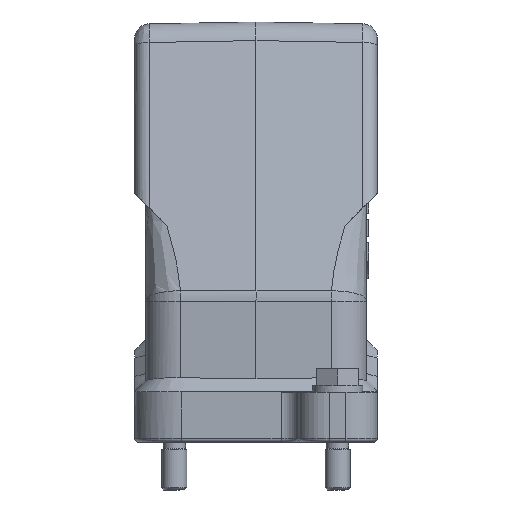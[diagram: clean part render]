
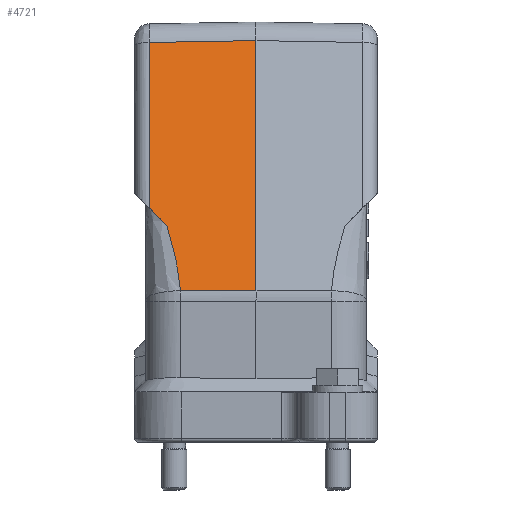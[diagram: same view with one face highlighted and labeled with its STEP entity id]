
A CAD part, left-side view. The second image highlights one B-rep face of the part: STEP entity #4721.
In plain terms, the highlighted planar face has unit normal (-0.966, 0.018, 0.259).
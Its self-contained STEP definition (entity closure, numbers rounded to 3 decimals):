
#3003=FACE_OUTER_BOUND('',#5505,.T.);
#3400=B_SPLINE_CURVE_WITH_KNOTS('',3,(#14874,#14875,#14876,#14877,#14878,
#14879,#14880,#14881,#14882,#14883,#14884,#14885,#14886,#14887,#14888,#14889,
#14890,#14891,#14892,#14893,#14894,#14895),.UNSPECIFIED.,.F.,.F.,(4,1,1,
2,2,1,2,2,1,1,1,2,2,4),(0.,0.25,0.375,0.438,
0.5,0.625,0.688,0.75,0.812,0.844,
0.859,0.867,0.875,1.),.UNSPECIFIED.);
#3681=LINE('',#14867,#4289);
#3682=LINE('',#14870,#4290);
#3683=LINE('',#14872,#4291);
#3684=LINE('',#14897,#4292);
#3685=LINE('',#14899,#4293);
#4289=VECTOR('',#11552,1.);
#4290=VECTOR('',#11553,1.);
#4291=VECTOR('',#11554,1.);
#4292=VECTOR('',#11555,1.);
#4293=VECTOR('',#11556,1.);
#4721=ADVANCED_FACE('',(#3003),#5152,.T.);
#5152=PLANE('',#10552);
#5505=EDGE_LOOP('',(#6314,#6315,#6316,#6317,#6318,#6319));
#6314=ORIENTED_EDGE('',*,*,#9011,.T.);
#6315=ORIENTED_EDGE('',*,*,#9012,.T.);
#6316=ORIENTED_EDGE('',*,*,#9013,.T.);
#6317=ORIENTED_EDGE('',*,*,#9014,.T.);
#6318=ORIENTED_EDGE('',*,*,#9015,.T.);
#6319=ORIENTED_EDGE('',*,*,#9016,.T.);
#8329=VERTEX_POINT('',#14868);
#8330=VERTEX_POINT('',#14869);
#8331=VERTEX_POINT('',#14871);
#8332=VERTEX_POINT('',#14873);
#8333=VERTEX_POINT('',#14896);
#8334=VERTEX_POINT('',#14898);
#9011=EDGE_CURVE('',#8329,#8330,#3681,.T.);
#9012=EDGE_CURVE('',#8330,#8331,#3682,.T.);
#9013=EDGE_CURVE('',#8331,#8332,#3683,.T.);
#9014=EDGE_CURVE('',#8332,#8333,#3400,.T.);
#9015=EDGE_CURVE('',#8333,#8334,#3684,.T.);
#9016=EDGE_CURVE('',#8334,#8329,#3685,.T.);
#10552=AXIS2_PLACEMENT_3D('',#14900,#11557,#11558);
#11552=DIRECTION('',(0.013,1.,-0.017));
#11553=DIRECTION('',(-0.259,0.,-0.966));
#11554=DIRECTION('',(-0.198,-0.693,-0.693));
#11555=DIRECTION('',(-0.017,-1.,0.002));
#11556=DIRECTION('',(0.259,0.,0.966));
#11557=DIRECTION('',(-0.966,0.017,0.259));
#11558=DIRECTION('',(-0.259,0.,-0.966));
#14867=CARTESIAN_POINT('',(-35.134,0.507,77.965));
#14868=CARTESIAN_POINT('',(-35.141,0.,77.974));
#14869=CARTESIAN_POINT('',(-34.798,25.561,77.527));
#14870=CARTESIAN_POINT('',(-44.469,25.561,41.436));
#14871=CARTESIAN_POINT('',(-45.395,25.561,37.981));
#14872=CARTESIAN_POINT('',(-48.416,14.998,27.418));
#14873=CARTESIAN_POINT('',(-46.609,21.317,33.737));
#14874=CARTESIAN_POINT('',(-46.609,21.317,33.737));
#14875=CARTESIAN_POINT('',(-47.051,20.816,32.121));
#14876=CARTESIAN_POINT('',(-47.67,20.158,29.855));
#14877=CARTESIAN_POINT('',(-48.315,19.556,27.488));
#14878=CARTESIAN_POINT('',(-48.575,19.333,26.532));
#14879=CARTESIAN_POINT('',(-48.745,19.192,25.909));
#14880=CARTESIAN_POINT('',(-48.833,19.121,25.583));
#14881=CARTESIAN_POINT('',(-49.06,18.947,24.748));
#14882=CARTESIAN_POINT('',(-49.318,18.771,23.798));
#14883=CARTESIAN_POINT('',(-49.622,18.593,22.675));
#14884=CARTESIAN_POINT('',(-49.835,18.474,21.888));
#14885=CARTESIAN_POINT('',(-49.951,18.411,21.458));
#14886=CARTESIAN_POINT('',(-50.176,18.296,20.628));
#14887=CARTESIAN_POINT('',(-50.312,18.227,20.126));
#14888=CARTESIAN_POINT('',(-50.414,18.176,19.749));
#14889=CARTESIAN_POINT('',(-50.45,18.159,19.613));
#14890=CARTESIAN_POINT('',(-50.463,18.153,19.565));
#14891=CARTESIAN_POINT('',(-50.471,18.149,19.536));
#14892=CARTESIAN_POINT('',(-50.471,18.149,19.538));
#14893=CARTESIAN_POINT('',(-50.594,18.094,19.082));
#14894=CARTESIAN_POINT('',(-50.716,18.063,18.628));
#14895=CARTESIAN_POINT('',(-50.844,18.052,18.15));
#14896=CARTESIAN_POINT('',(-50.844,18.052,18.15));
#14897=CARTESIAN_POINT('',(-51.158,0.055,18.191));
#14898=CARTESIAN_POINT('',(-51.159,0.,18.191));
#14899=CARTESIAN_POINT('',(-44.935,0.,41.42));
#14900=CARTESIAN_POINT('',(-44.935,0.,41.42));
